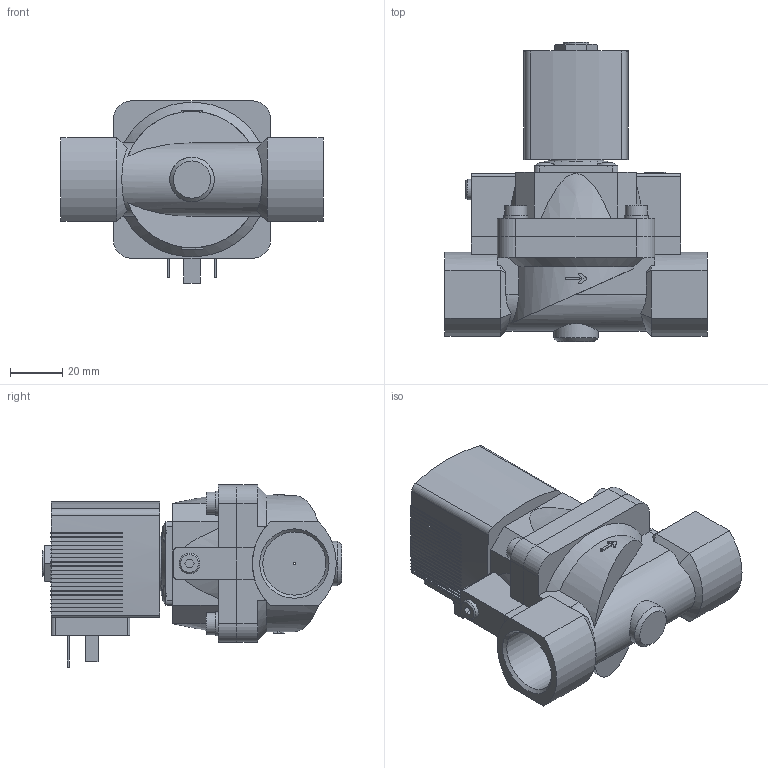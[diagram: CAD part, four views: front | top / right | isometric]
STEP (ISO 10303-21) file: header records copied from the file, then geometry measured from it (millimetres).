
FILE_DESCRIPTION(/* description */ ('STEP AP214'),/* implementation_level */ '2;1');
FILE_NAME(/* name */ '5404-301701-Servo-assisted_2_2_way_piston_valve',/* time_stamp */ '2024-02-27T16:32:59+01:00',/* author */ ('License CC BY-ND 4.0'),/* organization */ ('CADENAS'),/* preprocessor_version */ 'ST-DEVELOPER v19.3',/* originating_system */ 'PARTsolutions',/* authorisation */ ' ');
FILE_SCHEMA (('AUTOMOTIVE_DESIGN {1 0 10303 214 3 1 1}'));
Length unit declared in the file: millimetre
Products named in the file (4): 5404-301701-Servo-assisted 2/2 way piston valve; 5282g-8520MS000-2/2-Wege-Magnetventil_Gehaeuse; 5282d-20MSAU3J-2/2-Wege-Magnetventil_Deckel; AC10ex-6OO-Plan-Coil
Assembly tree (3 placements, depth 2):
  5404-301701-Servo-assisted 2/2 way piston valve
    5282g-8520MS000-2/2-Wege-Magnetventil_Gehaeuse
    5282d-20MSAU3J-2/2-Wege-Magnetventil_Deckel
    AC10ex-6OO-Plan-Coil
Bounding box: 100 x 114.1 x 69.5 mm (x, y, z)
Volume: 253708.1 mm3; surface area: 48913.1 mm2
Topology: 3 solids, 3 shells, 509 faces, 1390 edges, 921 vertices
Faces by surface type: plane 394, cylinder 84, cone 26, torus 5
Full cylindrical faces by diameter (mm): 1 x1, 2.013 x1, 4 x4, 7.5 x4, 7.6 x4, 7.8 x1, 8.5 x4, 9.2 x4, 9.74 x1, 17 x1, 21 x1, 24.117 x2
Entity records: 18012 total; most frequent: CARTESIAN_POINT 3031, ORIENTED_EDGE 2680, DIRECTION 2596, EDGE_CURVE 1340, LINE 992, VECTOR 992, VERTEX_POINT 910, AXIS2_PLACEMENT_3D 802
